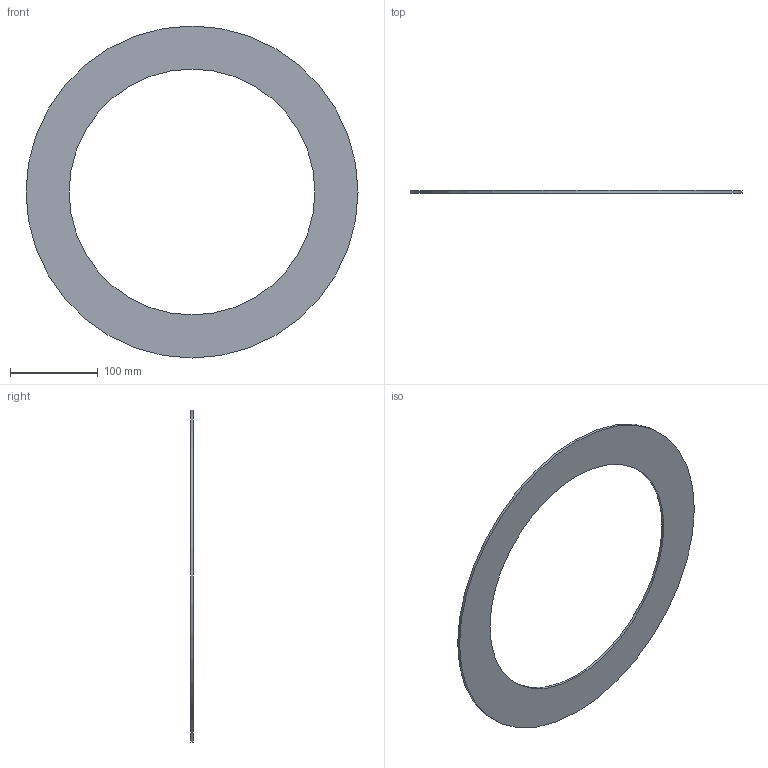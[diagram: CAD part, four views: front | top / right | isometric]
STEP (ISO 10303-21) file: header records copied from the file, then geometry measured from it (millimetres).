
FILE_DESCRIPTION(/* description */ ('Unknown'),/* implementation_level */ '2;1');
FILE_NAME(/* name */ 'GUA.315B',/* time_stamp */ '2021-04-01T12:48:26+02:00',/* author */ ('Unknown'),/* organization */ ('Unknown'),/* preprocessor_version */ 'ST-DEVELOPER v16.7',/* originating_system */ 'Solid Edge',/* authorisation */ 'Unknown');
FILE_SCHEMA (('AUTOMOTIVE_DESIGN {1 0 10303 214 3 1 1}'));
Length unit declared in the file: millimetre
Products named in the file (1): GUA.315B
Bounding box: 378 x 3 x 378 mm (x, y, z)
Volume: 151936.8 mm3; surface area: 107492.7 mm2
Topology: 1 solids, 1 shells, 4 faces, 6 edges, 4 vertices
Faces by surface type: cylinder 2, plane 2
Full cylindrical faces by diameter (mm): 280 x1, 378 x1
Entity records: 118 total; most frequent: DIRECTION 18, CARTESIAN_POINT 13, AXIS2_PLACEMENT_3D 9, ORIENTED_EDGE 8, EDGE_LOOP 8, FACE_BOUND 8, EDGE_CURVE 4, VERTEX_POINT 4
